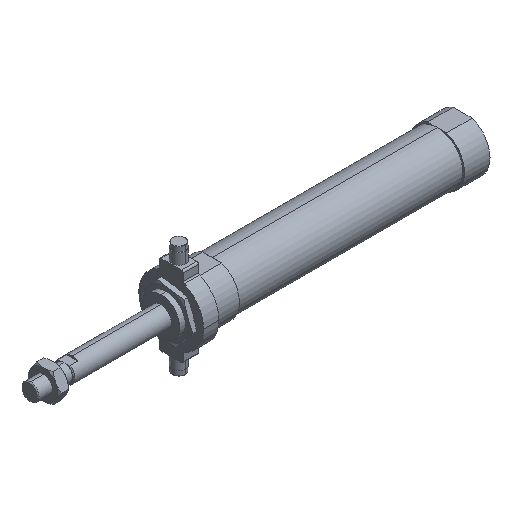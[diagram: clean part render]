
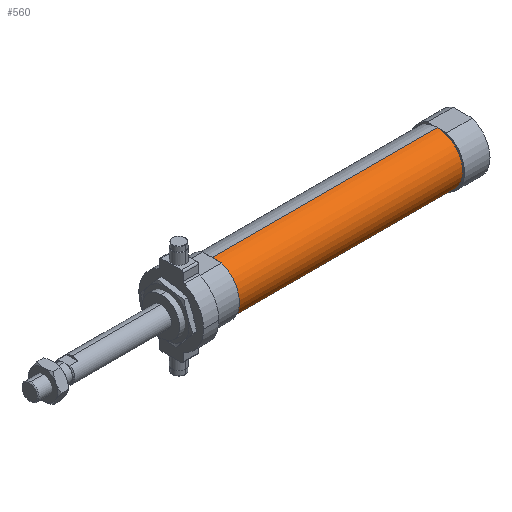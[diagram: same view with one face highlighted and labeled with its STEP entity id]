
A CAD part, isometric view. The second image highlights one B-rep face of the part: STEP entity #560.
In plain terms, the highlighted cylindrical face has radius 15 mm (diameter 30 mm), a partial arc.
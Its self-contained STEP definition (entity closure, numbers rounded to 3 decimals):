
#113 = CARTESIAN_POINT ( 'NONE',  ( 239., 0., 15. ) ) ;
#167 = LINE ( 'NONE', #1560, #1802 ) ;
#181 = CIRCLE ( 'NONE', #3765, 15. ) ;
#191 = ORIENTED_EDGE ( 'NONE', *, *, #2359, .T. ) ;
#560 = ADVANCED_FACE ( 'NONE', ( #1094 ), #1553, .T. ) ;
#702 = DIRECTION ( 'NONE',  ( -1., 0., 0. ) ) ;
#714 = VERTEX_POINT ( 'NONE', #2223 ) ;
#768 = EDGE_LOOP ( 'NONE', ( #1323, #191, #2854, #1834 ) ) ;
#774 = EDGE_CURVE ( 'NONE', #3829, #3558, #167, .T. ) ;
#979 = CARTESIAN_POINT ( 'NONE',  ( 107., 0., 0. ) ) ;
#1059 = LINE ( 'NONE', #1725, #2487 ) ;
#1094 = FACE_OUTER_BOUND ( 'NONE', #768, .T. ) ;
#1323 = ORIENTED_EDGE ( 'NONE', *, *, #2522, .F. ) ;
#1429 = AXIS2_PLACEMENT_3D ( 'NONE', #979, #3009, #3648 ) ;
#1553 = CYLINDRICAL_SURFACE ( 'NONE', #3131, 15. ) ;
#1560 = CARTESIAN_POINT ( 'NONE',  ( -6.469, 0., 15. ) ) ;
#1725 = CARTESIAN_POINT ( 'NONE',  ( -6.469, 0., -15. ) ) ;
#1802 = VECTOR ( 'NONE', #3920, 1000. ) ;
#1834 = ORIENTED_EDGE ( 'NONE', *, *, #2056, .F. ) ;
#1963 = DIRECTION ( 'NONE',  ( -1., 0., 0. ) ) ;
#2056 = EDGE_CURVE ( 'NONE', #3981, #3558, #2093, .T. ) ;
#2093 = CIRCLE ( 'NONE', #1429, 15. ) ;
#2171 = CARTESIAN_POINT ( 'NONE',  ( 107., 0., -15. ) ) ;
#2223 = CARTESIAN_POINT ( 'NONE',  ( 239., 0., -15. ) ) ;
#2300 = DIRECTION ( 'NONE',  ( 0., 0., 1. ) ) ;
#2359 = EDGE_CURVE ( 'NONE', #714, #3829, #181, .T. ) ;
#2487 = VECTOR ( 'NONE', #702, 1000. ) ;
#2522 = EDGE_CURVE ( 'NONE', #714, #3981, #1059, .T. ) ;
#2620 = CARTESIAN_POINT ( 'NONE',  ( 239., 0., 0. ) ) ;
#2622 = CARTESIAN_POINT ( 'NONE',  ( -6.469, 0., 0. ) ) ;
#2689 = CARTESIAN_POINT ( 'NONE',  ( 107., 0., 15. ) ) ;
#2854 = ORIENTED_EDGE ( 'NONE', *, *, #774, .T. ) ;
#3009 = DIRECTION ( 'NONE',  ( -1., 0., 0. ) ) ;
#3131 = AXIS2_PLACEMENT_3D ( 'NONE', #2622, #1963, #3493 ) ;
#3493 = DIRECTION ( 'NONE',  ( 0., 0., 1. ) ) ;
#3558 = VERTEX_POINT ( 'NONE', #2689 ) ;
#3648 = DIRECTION ( 'NONE',  ( 0., 0., 1. ) ) ;
#3765 = AXIS2_PLACEMENT_3D ( 'NONE', #2620, #3918, #2300 ) ;
#3829 = VERTEX_POINT ( 'NONE', #113 ) ;
#3918 = DIRECTION ( 'NONE',  ( -1., 0., 0. ) ) ;
#3920 = DIRECTION ( 'NONE',  ( -1., 0., 0. ) ) ;
#3981 = VERTEX_POINT ( 'NONE', #2171 ) ;
